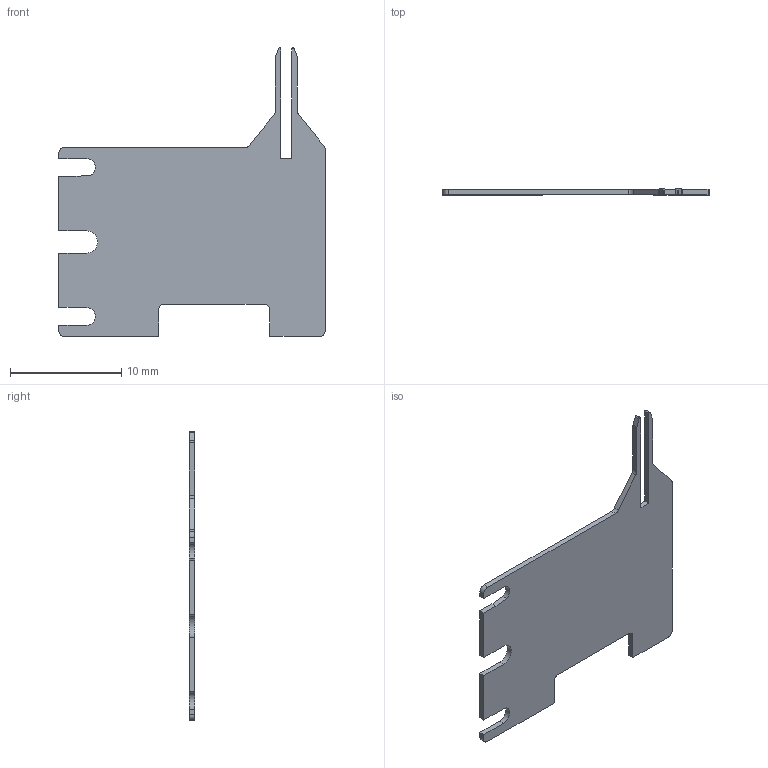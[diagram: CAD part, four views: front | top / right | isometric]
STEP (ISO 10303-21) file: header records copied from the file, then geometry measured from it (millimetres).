
FILE_DESCRIPTION (( 'STEP AP214' ), '1' );
FILE_NAME ('YGPU-P07 峚標ヵ-諦誧換菰.STEP', '2026-03-27T01:11:58', ( '' ), ( '' ), 'SwSTEP 2.0', 'SolidWorks 2022', '' );
FILE_SCHEMA (( 'AUTOMOTIVE_DESIGN' ));
Length unit declared in the file: millimetre
Products named in the file (1): YGPU-P07 微夹钳-客户传递
Bounding box: 24 x 0.5 x 26 mm (x, y, z)
Volume: 188.9 mm3; surface area: 825.1 mm2
Topology: 1 solids, 1 shells, 49 faces, 141 edges, 94 vertices
Faces by surface type: plane 31, cylinder 18
Entity records: 1645 total; most frequent: CARTESIAN_POINT 285, ORIENTED_EDGE 282, DIRECTION 277, EDGE_CURVE 141, LINE 105, VECTOR 105, VERTEX_POINT 94, AXIS2_PLACEMENT_3D 86
